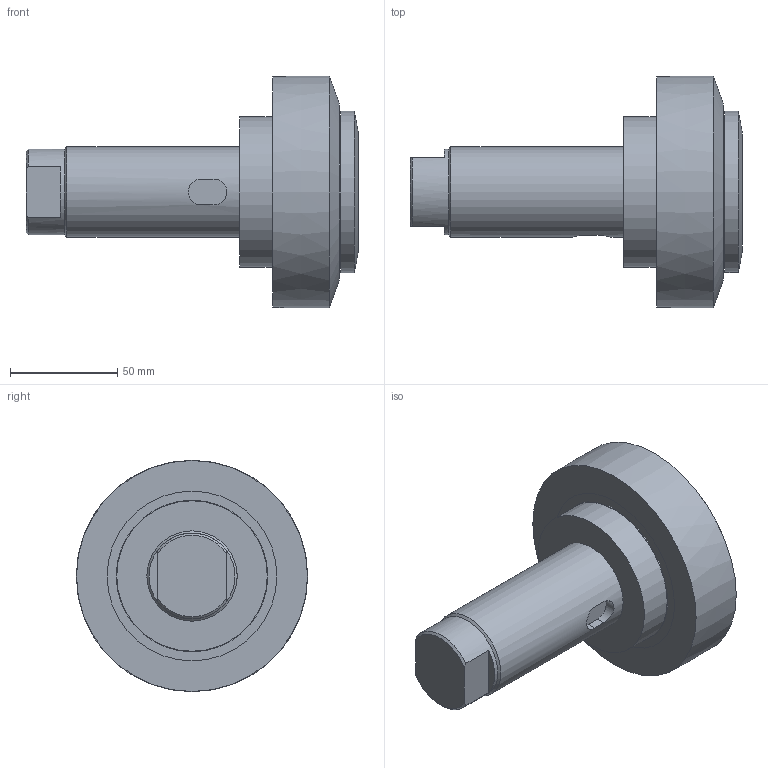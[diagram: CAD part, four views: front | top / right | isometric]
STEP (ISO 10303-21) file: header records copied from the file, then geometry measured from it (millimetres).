
FILE_DESCRIPTION(/* description */ ('-','CAx-IF Rec.Pracs.---Representation and Presentation of Product Manufacturing Information (PMI)---4.0---2014-10-13'),/* implementation_level */ '2;1');
FILE_NAME(/* name */ 'c:\temp\36f1cef9-811c-44dd-b7e0-b47930704f4d\6dba83ff-5029-4e12-a9c4-8014e7de3948.stp',/* time_stamp */ '2020-05-28T13:28:17+02:00',/* author */ ('-'),/* organization */ ('NTI CADcenter A/S'),/* preprocessor_version */ 'ST-DEVELOPER v18',/* originating_system */ 'Autodesk Inventor 2020',/* authorisation */ '-');
FILE_SCHEMA (('AP242_MANAGED_MODEL_BASED_3D_ENGINEERING_MIM_LF { 1 0 10303 442 1 1 4 }'));
Length unit declared in the file: millimetre
Products named in the file (1): TR 110.1360_Kontur
Bounding box: 154.5 x 107.69 x 107.7 mm (x, y, z)
Volume: 800473.7 mm3; surface area: 118173.7 mm2
Topology: 7 solids, 7 shells, 50 faces, 105 edges, 76 vertices
Faces by surface type: plane 27, cylinder 15, cone 7, bspline 1
Full cylindrical faces by diameter (mm): 40 x1, 42 x1, 47.8 x1, 63 x1, 69.3 x1, 70 x1, 70.5 x1, 71.6 x1, 75 x1, 77 x2, 79 x2
Entity records: 1588 total; most frequent: CARTESIAN_POINT 330, DIRECTION 264, ORIENTED_EDGE 210, AXIS2_PLACEMENT_3D 115, EDGE_CURVE 105, VERTEX_POINT 76, CIRCLE 65, EDGE_LOOP 57
